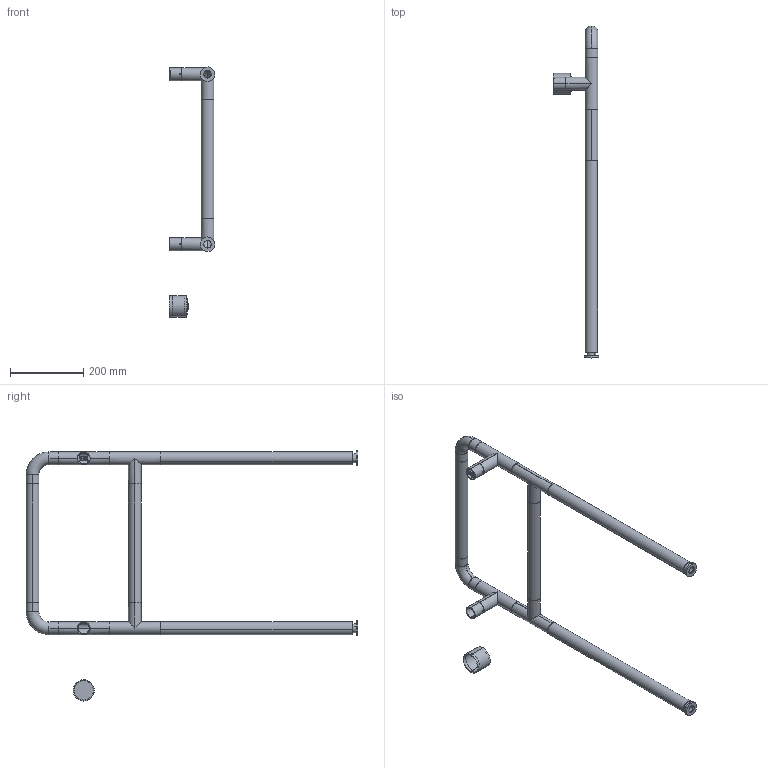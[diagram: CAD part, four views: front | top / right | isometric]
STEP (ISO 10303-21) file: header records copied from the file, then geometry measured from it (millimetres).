
FILE_DESCRIPTION (( 'STEP AP203' ), '1' );
FILE_NAME ('INFFLB0910500.STEP', '2026-03-03T08:00:53', ( '' ), ( '' ), 'SwSTEP 2.0', 'SolidWorks 2025', '' );
FILE_SCHEMA (( 'CONFIG_CONTROL_DESIGN' ));
Length unit declared in the file: millimetre
Products named in the file (9): INFTU_525; INFRAT; INFAPP_20; INFTU_325; INFINT; INFFIX; INFFIX_Passante; INFFLB0910500; INFRAC
Assembly tree (15 placements, depth 2):
  INFFLB0910500
    INFAPP_20  x2
    INFRAT  x4
    INFFIX
    INFTU_325  x2
    INFFIX_Passante
    INFRAC  x2
    INFTU_525  x2
    INFINT
Bounding box: 124.98 x 907.5 x 683.94 mm (x, y, z)
Volume: 499609.8 mm3; surface area: 628768.1 mm2
Topology: 17 solids, 17 shells, 179 faces, 436 edges, 288 vertices
Faces by surface type: cylinder 114, plane 49, torus 10, cone 6
Entity records: 4907 total; most frequent: CARTESIAN_POINT 1013, DIRECTION 636, ORIENTED_EDGE 536, AXIS2_PLACEMENT_3D 271, EDGE_CURVE 268, VERTEX_POINT 176, CIRCLE 142, EDGE_LOOP 140
